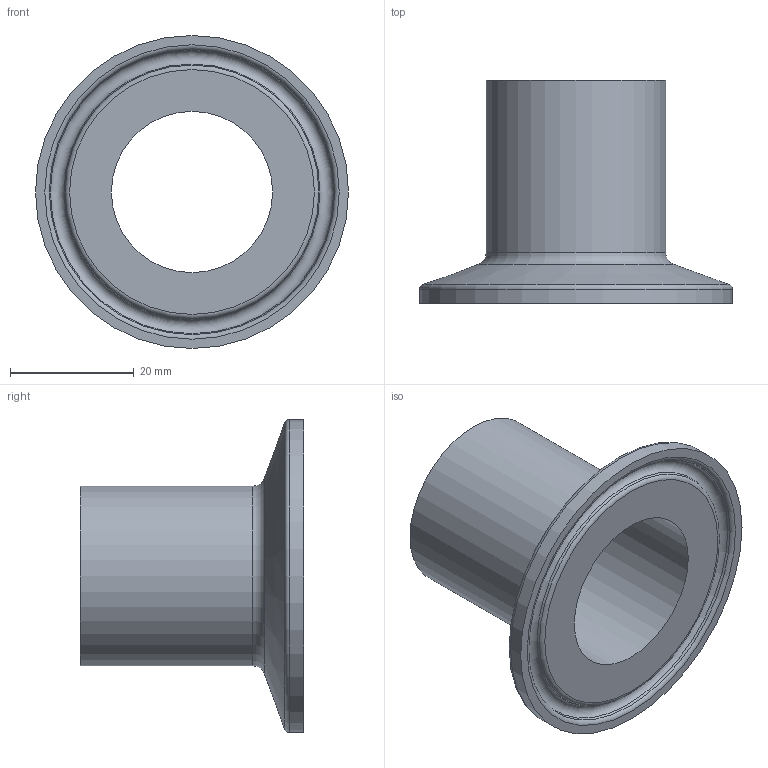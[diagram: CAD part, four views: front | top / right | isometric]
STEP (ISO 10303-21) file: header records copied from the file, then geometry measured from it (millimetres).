
FILE_DESCRIPTION(('Ferrule_29x1,5_L36_FL50,5_V02'),'2;1');
FILE_NAME('Ferrule_29x1,5_L36_FL50,5_V02.stp','2013-11-03T13:10:42',('DOCKWEILER AG'),('DOCKWEILER AG'),'Autodesk Inventor 2012','Autodesk Inventor 2012','');
FILE_SCHEMA(('CONFIG_CONTROL_DESIGN'));
Length unit declared in the file: millimetre
Products named in the file (1): N0003_003_001
Bounding box: 50.5 x 36 x 50.5 mm (x, y, z)
Volume: 10425.9 mm3; surface area: 9237.5 mm2
Topology: 1 solids, 1 shells, 14 faces, 25 edges, 14 vertices
Faces by surface type: torus 5, plane 3, cylinder 3, cone 3
Full cylindrical faces by diameter (mm): 26 x1, 29 x1, 50.5 x1
Entity records: 314 total; most frequent: DIRECTION 58, CARTESIAN_POINT 43, AXIS2_PLACEMENT_3D 29, ORIENTED_EDGE 28, EDGE_LOOP 28, VERTEX_POINT 14, CIRCLE 14, EDGE_CURVE 14
